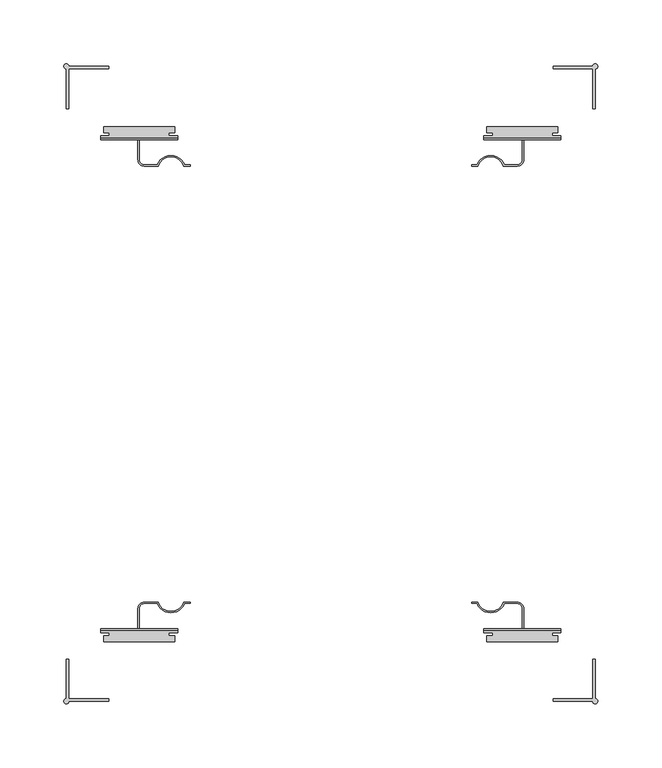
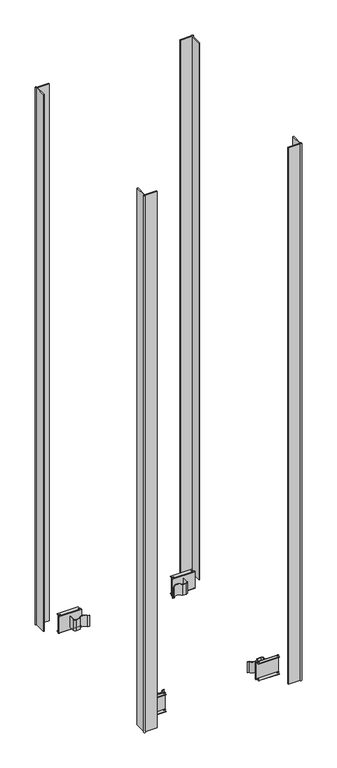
"""IFC4 building model written with IfcOpenShell, lengths in millimetres: column geometry, Облицовка колонн : КНАУФ-Суперлист два слоя."""

from ifc_helpers import new_model, si_unit, point, frame, frame_2d, origin, origin_with_axes, place, context, project, spatial, polyline, circle_curve, trimmed, segment, composite_curve, outline, extrude, source, transform, mapped, element, save
from ifc_brep_helpers import plane_surface, cylinder_surface, advanced_brep


def column_d6a319f2(model_context):
    return source(origin(), model_context, "Body", "SolidModel", [
        extrude(outline(composite_curve([segment(polyline([(174.0, -246.5), (205.0, -246.5), (205.0, -215.5), (206.9874508, -215.5), (206.9874508, -246.5436745)]), True, "CONTINUOUS"), segment(trimmed(circle_curve(frame_2d((206.9874508, -248.5311253)), 1.9874508), [point((206.9874508, -246.5436745))], [point((205.0, -248.5311253))], False, "CARTESIAN"), True, "CONTINUOUS"), segment(polyline([(205.0, -248.5311253), (174.0, -248.5311253), (174.0, -246.5)]), True, "CONTINUOUS")], self_intersect=False)), origin_with_axes(), (0.0, 0.0, 1.0), 1500.0),
        extrude(outline(composite_curve([segment(polyline([(-174.0, -246.5), (-174.0, -248.5311253), (-205.0, -248.5311253)]), True, "CONTINUOUS"), segment(trimmed(circle_curve(frame_2d((-206.9874508, -248.5311253)), 1.9874508), [point((-205.0, -248.5311253))], [point((-206.9874508, -246.5436745))], False, "CARTESIAN"), True, "CONTINUOUS"), segment(polyline([(-206.9874508, -246.5436745), (-206.9874508, -215.5), (-205.0, -215.5), (-205.0, -246.5), (-174.0, -246.5)]), True, "CONTINUOUS")], self_intersect=False)), origin_with_axes(), (0.0, 0.0, 1.0), 1500.0),
        extrude(outline(composite_curve([segment(polyline([(174.0, 246.5), (174.0, 248.5311253), (205.0, 248.5311253)]), True, "CONTINUOUS"), segment(trimmed(circle_curve(frame_2d((206.9874508, 248.5311253)), 1.9874508), [point((205.0, 248.5311253))], [point((206.9874508, 246.5436745))], False, "CARTESIAN"), True, "CONTINUOUS"), segment(polyline([(206.9874508, 246.5436745), (206.9874508, 215.5), (205.0, 215.5), (205.0, 246.5), (174.0, 246.5)]), True, "CONTINUOUS")], self_intersect=False)), origin_with_axes(), (0.0, 0.0, 1.0), 1500.0),
        extrude(outline(composite_curve([segment(polyline([(-174.0, 246.5), (-205.0, 246.5), (-205.0, 215.5), (-206.9874508, 215.5), (-206.9874508, 246.5436745)]), True, "CONTINUOUS"), segment(trimmed(circle_curve(frame_2d((-206.9874508, 248.5311253)), 1.9874508), [point((-206.9874508, 246.5436745))], [point((-205.0, 248.5311253))], False, "CARTESIAN"), True, "CONTINUOUS"), segment(polyline([(-205.0, 248.5311253), (-174.0, 248.5311253), (-174.0, 246.5)]), True, "CONTINUOUS")], self_intersect=False)), origin_with_axes(), (0.0, 0.0, 1.0), 1500.0),
        advanced_brep(
        [(-180.2, 191.5, 46.0), (-180.2, 192.5, 47.0), (-180.2, 194.5, 47.0), (-180.2, 194.5, 46.0), (-180.2, 192.5, 46.0), (-180.2, 192.5, 0.0), (-180.2, 194.5, 0.0), (-180.2, 194.5, -1.0), (-180.2, 192.5, -1.0), (-180.2, 191.5, 0.0), (-119.8, 191.5, 46.0), (-119.8, 191.5, 0.0), (-119.8, 192.5, -1.0), (-119.8, 194.5, -1.0), (-119.8, 194.5, 0.0), (-119.8, 192.5, 0.0), (-119.8, 192.5, 46.0), (-119.8, 194.5, 46.0), (-119.8, 194.5, 47.0), (-119.8, 192.5, 47.0), (-126.6838154, 194.5, 47.0), (-126.6838154, 196.8, 47.0), (-122.2, 196.8, 47.0), (-122.2, 201.5, 47.0), (-177.8, 201.5, 47.0), (-177.8, 196.8, 47.0), (-173.3161846, 196.8, 47.0), (-173.3161846, 194.5, 47.0), (-177.8, 201.5, 46.0), (-122.2, 201.5, 46.0), (-173.3161846, 194.5, 46.0), (-173.3161846, 196.8, 46.0), (-177.8, 196.8, 46.0), (-122.2, 196.8, 46.0), (-126.6838154, 196.8, 46.0), (-126.6838154, 194.5, 46.0), (-126.6838154, 194.5, 0.0), (-126.6838154, 196.8, 0.0), (-122.2, 196.8, 0.0), (-122.2, 201.5, 0.0), (-177.8, 201.5, 0.0), (-177.8, 196.8, 0.0), (-173.3161846, 196.8, 0.0), (-173.3161846, 194.5, 0.0), (-177.8, 201.5, -1.0), (-122.2, 201.5, -1.0), (-173.3161846, 194.5, -1.0), (-173.3161846, 196.8, -1.0), (-177.8, 196.8, -1.0), (-122.2, 196.8, -1.0), (-126.6838154, 196.8, -1.0), (-126.6838154, 194.5, -1.0)],
        [
            (0, 1, circle_curve(frame((-180.2, 192.5, 46.0), z_axis=(-1.0, 0.0, 0.0), x_axis=(0.0, -1.0, 0.0)), 1.0)),
            (1, 2),
            (2, 3),
            (3, 4),
            (4, 5),
            (5, 6),
            (6, 7),
            (7, 8),
            (8, 9, circle_curve(frame((-180.2, 192.5, 0.0), z_axis=(-1.0, 0.0, 0.0), x_axis=(0.0, -1.0, 0.0)), 1.0)),
            (9, 0),
            (10, 11),
            (11, 12, circle_curve(frame((-119.8, 192.5, 0.0), z_axis=(1.0, 0.0, 0.0), x_axis=(0.0, -1.0, 0.0)), 1.0)),
            (12, 13),
            (13, 14),
            (14, 15),
            (15, 16),
            (16, 17),
            (17, 18),
            (18, 19),
            (19, 10, circle_curve(frame((-119.8, 192.5, 46.0), z_axis=(1.0, 0.0, 0.0), x_axis=(0.0, -1.0, 0.0)), 1.0)),
            (0, 10),
            (19, 1),
            (18, 20),
            (20, 21),
            (21, 22),
            (22, 23),
            (23, 24),
            (24, 25),
            (25, 26),
            (26, 27),
            (27, 2),
            (28, 24),
            (23, 29),
            (29, 28),
            (16, 4),
            (3, 30),
            (30, 31),
            (31, 32),
            (32, 28),
            (29, 33),
            (33, 34),
            (34, 35),
            (35, 17),
            (15, 5),
            (14, 36),
            (36, 37),
            (37, 38),
            (38, 39),
            (39, 40),
            (40, 41),
            (41, 42),
            (42, 43),
            (43, 6),
            (44, 40),
            (39, 45),
            (45, 44),
            (12, 8),
            (7, 46),
            (46, 47),
            (47, 48),
            (48, 44),
            (45, 49),
            (49, 50),
            (50, 51),
            (51, 13),
            (11, 9),
            (30, 27),
            (26, 31),
            (46, 43),
            (42, 47),
            (25, 32),
            (41, 48),
            (34, 21),
            (20, 35),
            (50, 37),
            (36, 51),
            (33, 22),
            (49, 38),
        ],
        [
            plane_surface(frame((-180.2, 191.5, 46.0), z_axis=(-1.0, 0.0, 0.0), x_axis=(0.0, 0.0, 1.0))),
            plane_surface(frame((-119.8, 191.5, 46.0), z_axis=(1.0, 0.0, 0.0), x_axis=(0.0, 0.0, -1.0))),
            cylinder_surface(frame((-119.8, 192.5, 46.0), z_axis=(-1.0, 0.0, 0.0), x_axis=(0.0, -1.0, 0.0)), 1.0),
            plane_surface(frame((-180.2, 192.5, 47.0), z_axis=(0.0, 0.0, 1.0), x_axis=(1.0, 0.0, 0.0))),
            plane_surface(frame((-180.2, 201.5, 47.0), z_axis=(0.0, 1.0, 0.0), x_axis=(1.0, 0.0, 0.0))),
            plane_surface(frame((-180.2, 201.5, 46.0), z_axis=(0.0, 0.0, -1.0), x_axis=(1.0, 0.0, 0.0))),
            plane_surface(frame((-180.2, 192.5, 46.0), z_axis=(0.0, 1.0, 0.0), x_axis=(1.0, 0.0, 0.0))),
            plane_surface(frame((-180.2, 192.5, 0.0), z_axis=(0.0, 0.0, 1.0), x_axis=(1.0, 0.0, 0.0))),
            plane_surface(frame((-180.2, 201.5, 0.0), z_axis=(0.0, 1.0, 0.0), x_axis=(1.0, 0.0, 0.0))),
            plane_surface(frame((-180.2, 201.5, -1.0), z_axis=(0.0, 0.0, -1.0), x_axis=(1.0, 0.0, 0.0))),
            cylinder_surface(frame((-119.8, 192.5, 0.0), z_axis=(-1.0, 0.0, 0.0), x_axis=(0.0, -1.0, 0.0)), 1.0),
            plane_surface(frame((-180.2, 191.5, 0.0), z_axis=(0.0, -1.0, 0.0), x_axis=(1.0, 0.0, 0.0))),
            plane_surface(frame((-173.3161846, 194.5, 47.0), z_axis=(-1.0, 0.0, 0.0), x_axis=(0.0, 0.0, -1.0))),
            plane_surface(frame((-173.3161846, 196.8, 47.0), z_axis=(0.0, -1.0, 0.0), x_axis=(0.0, 0.0, -1.0))),
            plane_surface(frame((-177.8, 196.8, 47.0), z_axis=(-1.0, 0.0, 0.0), x_axis=(0.0, 0.0, -1.0))),
            plane_surface(frame((-180.2, 194.5, 47.0), z_axis=(0.0, 1.0, 0.0), x_axis=(0.0, 0.0, -1.0))),
            plane_surface(frame((-126.6838154, 196.8, 47.0), z_axis=(1.0, 0.0, 0.0), x_axis=(0.0, 0.0, -1.0))),
            plane_surface(frame((-122.2, 196.8, 47.0), z_axis=(0.0, -1.0, 0.0), x_axis=(0.0, 0.0, -1.0))),
            plane_surface(frame((-122.2, 201.5, 47.0), z_axis=(1.0, 0.0, 0.0), x_axis=(0.0, 0.0, -1.0))),
            plane_surface(frame((-126.6838154, 194.5, 47.0), z_axis=(0.0, 1.0, 0.0), x_axis=(0.0, 0.0, -1.0))),
        ],
        [
            (0, [[1, 2, 3, 4, 5, 6, 7, 8, 9, 10]]),
            (1, [[11, 12, 13, 14, 15, 16, 17, 18, 19, 20]]),
            (2, [[-1, 21, -20, 22]]),
            (3, [[-22, -19, 23, 24, 25, 26, 27, 28, 29, 30, 31, -2]]),
            (4, [[32, -27, 33, 34]]),
            (5, [[35, -4, 36, 37, 38, 39, -34, 40, 41, 42, 43, -17]]),
            (6, [[-5, -35, -16, 44]]),
            (7, [[-44, -15, 45, 46, 47, 48, 49, 50, 51, 52, 53, -6]]),
            (8, [[54, -49, 55, 56]]),
            (9, [[57, -8, 58, 59, 60, 61, -56, 62, 63, 64, 65, -13]]),
            (10, [[-9, -57, -12, 66]]),
            (11, [[-10, -66, -11, -21]]),
            (12, [[67, -30, 68, -37]]),
            (12, [[69, -52, 70, -59]]),
            (13, [[-68, -29, 71, -38]]),
            (13, [[-70, -51, 72, -60]]),
            (14, [[-71, -28, -32, -39]]),
            (14, [[-72, -50, -54, -61]]),
            (15, [[-67, -36, -3, -31]]),
            (15, [[-69, -58, -7, -53]]),
            (16, [[73, -24, 74, -42]]),
            (16, [[75, -46, 76, -64]]),
            (17, [[-73, -41, 77, -25]]),
            (17, [[-75, -63, 78, -47]]),
            (18, [[-77, -40, -33, -26]]),
            (18, [[-78, -62, -55, -48]]),
            (19, [[-74, -23, -18, -43]]),
            (19, [[-76, -45, -14, -65]]),
        ],
    ),
        extrude(outline(composite_curve([segment(trimmed(circle_curve(frame_2d((-125.2, 167.4974781)), 10.5025219), [point((-115.2, 170.7073015))], [point((-135.2, 170.7073015))], True, "CARTESIAN"), True, "CONTINUOUS"), segment(polyline([(-135.2, 170.7073015), (-146.0, 170.7073015)]), True, "CONTINUOUS"), segment(trimmed(circle_curve(frame_2d((-146.0, 175.7073015)), 5.0), [point((-146.0, 170.7073015))], [point((-151.0, 175.7073015))], False, "CARTESIAN"), True, "CONTINUOUS"), segment(polyline([(-151.0, 175.7073015), (-151.0, 191.5), (-150.0, 191.5), (-150.0, 175.7073015)]), True, "CONTINUOUS"), segment(trimmed(circle_curve(frame_2d((-146.0, 175.7073015)), 4.0), [point((-150.0, 175.7073015))], [point((-146.0, 171.7073015))], True, "CARTESIAN"), True, "CONTINUOUS"), segment(polyline([(-146.0, 171.7073015), (-135.9044569, 171.7073015)]), True, "CONTINUOUS"), segment(trimmed(circle_curve(frame_2d((-125.2, 167.4974781)), 11.5025219), [point((-135.9044569, 171.7073015))], [point((-114.4955431, 171.7073015))], False, "CARTESIAN"), True, "CONTINUOUS"), segment(polyline([(-114.4955431, 171.7073015), (-110.2, 171.7073015), (-110.2, 170.7073015), (-115.2, 170.7073015)]), True, "CONTINUOUS")], self_intersect=False)), frame((0.0, 0.0, 8.0), z_axis=(0.0, 0.0, 1.0), x_axis=(1.0, 0.0, 0.0)), (0.0, 0.0, 1.0), 30.0),
        advanced_brep(
        [(180.2, 191.5, 46.0), (180.2, 191.5, 0.0), (180.2, 192.5, -1.0), (180.2, 194.5, -1.0), (180.2, 194.5, 0.0), (180.2, 192.5, 0.0), (180.2, 192.5, 46.0), (180.2, 194.5, 46.0), (180.2, 194.5, 47.0), (180.2, 192.5, 47.0), (119.8, 191.5, 46.0), (119.8, 192.5, 47.0), (119.8, 194.5, 47.0), (119.8, 194.5, 46.0), (119.8, 192.5, 46.0), (119.8, 192.5, 0.0), (119.8, 194.5, 0.0), (119.8, 194.5, -1.0), (119.8, 192.5, -1.0), (119.8, 191.5, 0.0), (173.3161846, 194.5, 47.0), (173.3161846, 196.8, 47.0), (177.8, 196.8, 47.0), (177.8, 201.5, 47.0), (122.2, 201.5, 47.0), (122.2, 196.8, 47.0), (126.6838154, 196.8, 47.0), (126.6838154, 194.5, 47.0), (177.8, 201.5, 46.0), (122.2, 201.5, 46.0), (126.6838154, 194.5, 46.0), (126.6838154, 196.8, 46.0), (122.2, 196.8, 46.0), (177.8, 196.8, 46.0), (173.3161846, 196.8, 46.0), (173.3161846, 194.5, 46.0), (173.3161846, 194.5, 0.0), (173.3161846, 196.8, 0.0), (177.8, 196.8, 0.0), (177.8, 201.5, 0.0), (122.2, 201.5, 0.0), (122.2, 196.8, 0.0), (126.6838154, 196.8, 0.0), (126.6838154, 194.5, 0.0), (177.8, 201.5, -1.0), (122.2, 201.5, -1.0), (126.6838154, 194.5, -1.0), (126.6838154, 196.8, -1.0), (122.2, 196.8, -1.0), (177.8, 196.8, -1.0), (173.3161846, 196.8, -1.0), (173.3161846, 194.5, -1.0)],
        [
            (0, 1),
            (1, 2, circle_curve(frame((180.2, 192.5, 0.0), z_axis=(1.0, 0.0, 0.0), x_axis=(0.0, -1.0, 0.0)), 1.0)),
            (2, 3),
            (3, 4),
            (4, 5),
            (5, 6),
            (6, 7),
            (7, 8),
            (8, 9),
            (9, 0, circle_curve(frame((180.2, 192.5, 46.0), z_axis=(1.0, 0.0, 0.0), x_axis=(0.0, -1.0, 0.0)), 1.0)),
            (10, 11, circle_curve(frame((119.8, 192.5, 46.0), z_axis=(-1.0, 0.0, 0.0), x_axis=(0.0, -1.0, 0.0)), 1.0)),
            (11, 12),
            (12, 13),
            (13, 14),
            (14, 15),
            (15, 16),
            (16, 17),
            (17, 18),
            (18, 19, circle_curve(frame((119.8, 192.5, 0.0), z_axis=(-1.0, 0.0, 0.0), x_axis=(0.0, -1.0, 0.0)), 1.0)),
            (19, 10),
            (9, 11),
            (10, 0),
            (8, 20),
            (20, 21),
            (21, 22),
            (22, 23),
            (23, 24),
            (24, 25),
            (25, 26),
            (26, 27),
            (27, 12),
            (28, 29),
            (29, 24),
            (23, 28),
            (13, 30),
            (30, 31),
            (31, 32),
            (32, 29),
            (28, 33),
            (33, 34),
            (34, 35),
            (35, 7),
            (6, 14),
            (5, 15),
            (4, 36),
            (36, 37),
            (37, 38),
            (38, 39),
            (39, 40),
            (40, 41),
            (41, 42),
            (42, 43),
            (43, 16),
            (44, 45),
            (45, 40),
            (39, 44),
            (17, 46),
            (46, 47),
            (47, 48),
            (48, 45),
            (44, 49),
            (49, 50),
            (50, 51),
            (51, 3),
            (2, 18),
            (1, 19),
            (34, 21),
            (20, 35),
            (50, 37),
            (36, 51),
            (33, 22),
            (49, 38),
            (30, 27),
            (26, 31),
            (46, 43),
            (42, 47),
            (25, 32),
            (41, 48),
        ],
        [
            plane_surface(frame((180.2, 191.5, 46.0), z_axis=(1.0, 0.0, 0.0), x_axis=(0.0, 0.0, 1.0))),
            plane_surface(frame((119.8, 191.5, 46.0), z_axis=(-1.0, 0.0, 0.0), x_axis=(0.0, 0.0, -1.0))),
            cylinder_surface(frame((119.8, 192.5, 46.0), z_axis=(1.0, 0.0, 0.0), x_axis=(0.0, -1.0, 0.0)), 1.0),
            plane_surface(frame((180.2, 192.5, 47.0), z_axis=(0.0, 0.0, 1.0), x_axis=(-1.0, 0.0, 0.0))),
            plane_surface(frame((180.2, 201.5, 47.0), z_axis=(0.0, 1.0, 0.0), x_axis=(-1.0, 0.0, 0.0))),
            plane_surface(frame((180.2, 201.5, 46.0), z_axis=(0.0, 0.0, -1.0), x_axis=(-1.0, 0.0, 0.0))),
            plane_surface(frame((180.2, 192.5, 46.0), z_axis=(0.0, 1.0, 0.0), x_axis=(-1.0, 0.0, 0.0))),
            plane_surface(frame((180.2, 192.5, 0.0), z_axis=(0.0, 0.0, 1.0), x_axis=(-1.0, 0.0, 0.0))),
            plane_surface(frame((180.2, 201.5, 0.0), z_axis=(0.0, 1.0, 0.0), x_axis=(-1.0, 0.0, 0.0))),
            plane_surface(frame((180.2, 201.5, -1.0), z_axis=(0.0, 0.0, -1.0), x_axis=(-1.0, 0.0, 0.0))),
            cylinder_surface(frame((119.8, 192.5, 0.0), z_axis=(1.0, 0.0, 0.0), x_axis=(0.0, -1.0, 0.0)), 1.0),
            plane_surface(frame((180.2, 191.5, 0.0), z_axis=(0.0, -1.0, 0.0), x_axis=(-1.0, 0.0, 0.0))),
            plane_surface(frame((173.3161846, 194.5, 47.0), z_axis=(1.0, 0.0, 0.0), x_axis=(0.0, 0.0, -1.0))),
            plane_surface(frame((173.3161846, 196.8, 47.0), z_axis=(0.0, -1.0, 0.0), x_axis=(0.0, 0.0, -1.0))),
            plane_surface(frame((177.8, 196.8, 47.0), z_axis=(1.0, 0.0, 0.0), x_axis=(0.0, 0.0, -1.0))),
            plane_surface(frame((180.2, 194.5, 47.0), z_axis=(0.0, 1.0, 0.0), x_axis=(0.0, 0.0, -1.0))),
            plane_surface(frame((126.6838154, 196.8, 47.0), z_axis=(-1.0, 0.0, 0.0), x_axis=(0.0, 0.0, -1.0))),
            plane_surface(frame((122.2, 196.8, 47.0), z_axis=(0.0, -1.0, 0.0), x_axis=(0.0, 0.0, -1.0))),
            plane_surface(frame((122.2, 201.5, 47.0), z_axis=(-1.0, 0.0, 0.0), x_axis=(0.0, 0.0, -1.0))),
            plane_surface(frame((126.6838154, 194.5, 47.0), z_axis=(0.0, 1.0, 0.0), x_axis=(0.0, 0.0, -1.0))),
        ],
        [
            (0, [[1, 2, 3, 4, 5, 6, 7, 8, 9, 10]]),
            (1, [[11, 12, 13, 14, 15, 16, 17, 18, 19, 20]]),
            (2, [[21, -11, 22, -10]]),
            (3, [[-9, 23, 24, 25, 26, 27, 28, 29, 30, 31, -12, -21]]),
            (4, [[32, 33, -27, 34]]),
            (5, [[-14, 35, 36, 37, 38, -32, 39, 40, 41, 42, -7, 43]]),
            (6, [[44, -15, -43, -6]]),
            (7, [[-5, 45, 46, 47, 48, 49, 50, 51, 52, 53, -16, -44]]),
            (8, [[54, 55, -49, 56]]),
            (9, [[-18, 57, 58, 59, 60, -54, 61, 62, 63, 64, -3, 65]]),
            (10, [[66, -19, -65, -2]]),
            (11, [[-22, -20, -66, -1]]),
            (12, [[-41, 67, -24, 68]]),
            (12, [[-63, 69, -46, 70]]),
            (13, [[-40, 71, -25, -67]]),
            (13, [[-62, 72, -47, -69]]),
            (14, [[-39, -34, -26, -71]]),
            (14, [[-61, -56, -48, -72]]),
            (15, [[-23, -8, -42, -68]]),
            (15, [[-45, -4, -64, -70]]),
            (16, [[-36, 73, -30, 74]]),
            (16, [[-58, 75, -52, 76]]),
            (17, [[-29, 77, -37, -74]]),
            (17, [[-51, 78, -59, -76]]),
            (18, [[-28, -33, -38, -77]]),
            (18, [[-50, -55, -60, -78]]),
            (19, [[-35, -13, -31, -73]]),
            (19, [[-57, -17, -53, -75]]),
        ],
    ),
        extrude(outline(composite_curve([segment(polyline([(115.2, 170.7073015), (110.2, 170.7073015), (110.2, 171.7073015), (114.4955431, 171.7073015)]), True, "CONTINUOUS"), segment(trimmed(circle_curve(frame_2d((125.2, 167.4974781)), 11.5025219), [point((114.4955431, 171.7073015))], [point((135.9044569, 171.7073015))], False, "CARTESIAN"), True, "CONTINUOUS"), segment(polyline([(135.9044569, 171.7073015), (146.0, 171.7073015)]), True, "CONTINUOUS"), segment(trimmed(circle_curve(frame_2d((146.0, 175.7073015)), 4.0), [point((146.0, 171.7073015))], [point((150.0, 175.7073015))], True, "CARTESIAN"), True, "CONTINUOUS"), segment(polyline([(150.0, 175.7073015), (150.0, 191.5), (151.0, 191.5), (151.0, 175.7073015)]), True, "CONTINUOUS"), segment(trimmed(circle_curve(frame_2d((146.0, 175.7073015)), 5.0), [point((151.0, 175.7073015))], [point((146.0, 170.7073015))], False, "CARTESIAN"), True, "CONTINUOUS"), segment(polyline([(146.0, 170.7073015), (135.2, 170.7073015)]), True, "CONTINUOUS"), segment(trimmed(circle_curve(frame_2d((125.2, 167.4974781)), 10.5025219), [point((135.2, 170.7073015))], [point((115.2, 170.7073015))], True, "CARTESIAN"), True, "CONTINUOUS")], self_intersect=False)), frame((0.0, 0.0, 8.0), z_axis=(0.0, 0.0, 1.0), x_axis=(1.0, 0.0, 0.0)), (0.0, 0.0, 1.0), 30.0),
        advanced_brep(
        [(-180.2, -191.5, 46.0), (-180.2, -191.5, 0.0), (-180.2, -192.5, -1.0), (-180.2, -194.5, -1.0), (-180.2, -194.5, 0.0), (-180.2, -192.5, 0.0), (-180.2, -192.5, 46.0), (-180.2, -194.5, 46.0), (-180.2, -194.5, 47.0), (-180.2, -192.5, 47.0), (-119.8, -191.5, 46.0), (-119.8, -192.5, 47.0), (-119.8, -194.5, 47.0), (-119.8, -194.5, 46.0), (-119.8, -192.5, 46.0), (-119.8, -192.5, 0.0), (-119.8, -194.5, 0.0), (-119.8, -194.5, -1.0), (-119.8, -192.5, -1.0), (-119.8, -191.5, 0.0), (-173.3161846, -194.5, 47.0), (-173.3161846, -196.8, 47.0), (-177.8, -196.8, 47.0), (-177.8, -201.5, 47.0), (-122.2, -201.5, 47.0), (-122.2, -196.8, 47.0), (-126.6838154, -196.8, 47.0), (-126.6838154, -194.5, 47.0), (-177.8, -201.5, 46.0), (-122.2, -201.5, 46.0), (-126.6838154, -194.5, 46.0), (-126.6838154, -196.8, 46.0), (-122.2, -196.8, 46.0), (-177.8, -196.8, 46.0), (-173.3161846, -196.8, 46.0), (-173.3161846, -194.5, 46.0), (-173.3161846, -194.5, 0.0), (-173.3161846, -196.8, 0.0), (-177.8, -196.8, 0.0), (-177.8, -201.5, 0.0), (-122.2, -201.5, 0.0), (-122.2, -196.8, 0.0), (-126.6838154, -196.8, 0.0), (-126.6838154, -194.5, 0.0), (-177.8, -201.5, -1.0), (-122.2, -201.5, -1.0), (-126.6838154, -194.5, -1.0), (-126.6838154, -196.8, -1.0), (-122.2, -196.8, -1.0), (-177.8, -196.8, -1.0), (-173.3161846, -196.8, -1.0), (-173.3161846, -194.5, -1.0)],
        [
            (0, 1),
            (1, 2, circle_curve(frame((-180.2, -192.5, 0.0), z_axis=(-1.0, 0.0, 0.0), x_axis=(0.0, 1.0, 0.0)), 1.0)),
            (2, 3),
            (3, 4),
            (4, 5),
            (5, 6),
            (6, 7),
            (7, 8),
            (8, 9),
            (9, 0, circle_curve(frame((-180.2, -192.5, 46.0), z_axis=(-1.0, 0.0, 0.0), x_axis=(0.0, 1.0, 0.0)), 1.0)),
            (10, 11, circle_curve(frame((-119.8, -192.5, 46.0), z_axis=(1.0, 0.0, 0.0), x_axis=(0.0, 1.0, 0.0)), 1.0)),
            (11, 12),
            (12, 13),
            (13, 14),
            (14, 15),
            (15, 16),
            (16, 17),
            (17, 18),
            (18, 19, circle_curve(frame((-119.8, -192.5, 0.0), z_axis=(1.0, 0.0, 0.0), x_axis=(0.0, 1.0, 0.0)), 1.0)),
            (19, 10),
            (9, 11),
            (10, 0),
            (8, 20),
            (20, 21),
            (21, 22),
            (22, 23),
            (23, 24),
            (24, 25),
            (25, 26),
            (26, 27),
            (27, 12),
            (28, 29),
            (29, 24),
            (23, 28),
            (13, 30),
            (30, 31),
            (31, 32),
            (32, 29),
            (28, 33),
            (33, 34),
            (34, 35),
            (35, 7),
            (6, 14),
            (5, 15),
            (4, 36),
            (36, 37),
            (37, 38),
            (38, 39),
            (39, 40),
            (40, 41),
            (41, 42),
            (42, 43),
            (43, 16),
            (44, 45),
            (45, 40),
            (39, 44),
            (17, 46),
            (46, 47),
            (47, 48),
            (48, 45),
            (44, 49),
            (49, 50),
            (50, 51),
            (51, 3),
            (2, 18),
            (1, 19),
            (34, 21),
            (20, 35),
            (50, 37),
            (36, 51),
            (33, 22),
            (49, 38),
            (30, 27),
            (26, 31),
            (46, 43),
            (42, 47),
            (25, 32),
            (41, 48),
        ],
        [
            plane_surface(frame((-180.2, -191.5, 46.0), z_axis=(-1.0, 0.0, 0.0), x_axis=(0.0, 0.0, 1.0))),
            plane_surface(frame((-119.8, -191.5, 46.0), z_axis=(1.0, 0.0, 0.0), x_axis=(0.0, 0.0, -1.0))),
            cylinder_surface(frame((-119.8, -192.5, 46.0), z_axis=(-1.0, 0.0, 0.0), x_axis=(0.0, 1.0, 0.0)), 1.0),
            plane_surface(frame((-180.2, -192.5, 47.0), z_axis=(0.0, 0.0, 1.0), x_axis=(1.0, 0.0, 0.0))),
            plane_surface(frame((-180.2, -201.5, 47.0), z_axis=(0.0, -1.0, 0.0), x_axis=(1.0, 0.0, 0.0))),
            plane_surface(frame((-180.2, -201.5, 46.0), z_axis=(0.0, 0.0, -1.0), x_axis=(1.0, 0.0, 0.0))),
            plane_surface(frame((-180.2, -192.5, 46.0), z_axis=(0.0, -1.0, 0.0), x_axis=(1.0, 0.0, 0.0))),
            plane_surface(frame((-180.2, -192.5, 0.0), z_axis=(0.0, 0.0, 1.0), x_axis=(1.0, 0.0, 0.0))),
            plane_surface(frame((-180.2, -201.5, 0.0), z_axis=(0.0, -1.0, 0.0), x_axis=(1.0, 0.0, 0.0))),
            plane_surface(frame((-180.2, -201.5, -1.0), z_axis=(0.0, 0.0, -1.0), x_axis=(1.0, 0.0, 0.0))),
            cylinder_surface(frame((-119.8, -192.5, 0.0), z_axis=(-1.0, 0.0, 0.0), x_axis=(0.0, 1.0, 0.0)), 1.0),
            plane_surface(frame((-180.2, -191.5, 0.0), z_axis=(0.0, 1.0, 0.0), x_axis=(1.0, 0.0, 0.0))),
            plane_surface(frame((-173.3161846, -194.5, 47.0), z_axis=(-1.0, 0.0, 0.0), x_axis=(0.0, 0.0, -1.0))),
            plane_surface(frame((-173.3161846, -196.8, 47.0), z_axis=(0.0, 1.0, 0.0), x_axis=(0.0, 0.0, -1.0))),
            plane_surface(frame((-177.8, -196.8, 47.0), z_axis=(-1.0, 0.0, 0.0), x_axis=(0.0, 0.0, -1.0))),
            plane_surface(frame((-180.2, -194.5, 47.0), z_axis=(0.0, -1.0, 0.0), x_axis=(0.0, 0.0, -1.0))),
            plane_surface(frame((-126.6838154, -196.8, 47.0), z_axis=(1.0, 0.0, 0.0), x_axis=(0.0, 0.0, -1.0))),
            plane_surface(frame((-122.2, -196.8, 47.0), z_axis=(0.0, 1.0, 0.0), x_axis=(0.0, 0.0, -1.0))),
            plane_surface(frame((-122.2, -201.5, 47.0), z_axis=(1.0, 0.0, 0.0), x_axis=(0.0, 0.0, -1.0))),
            plane_surface(frame((-126.6838154, -194.5, 47.0), z_axis=(0.0, -1.0, 0.0), x_axis=(0.0, 0.0, -1.0))),
        ],
        [
            (0, [[1, 2, 3, 4, 5, 6, 7, 8, 9, 10]]),
            (1, [[11, 12, 13, 14, 15, 16, 17, 18, 19, 20]]),
            (2, [[21, -11, 22, -10]]),
            (3, [[-9, 23, 24, 25, 26, 27, 28, 29, 30, 31, -12, -21]]),
            (4, [[32, 33, -27, 34]]),
            (5, [[-14, 35, 36, 37, 38, -32, 39, 40, 41, 42, -7, 43]]),
            (6, [[44, -15, -43, -6]]),
            (7, [[-5, 45, 46, 47, 48, 49, 50, 51, 52, 53, -16, -44]]),
            (8, [[54, 55, -49, 56]]),
            (9, [[-18, 57, 58, 59, 60, -54, 61, 62, 63, 64, -3, 65]]),
            (10, [[66, -19, -65, -2]]),
            (11, [[-22, -20, -66, -1]]),
            (12, [[-41, 67, -24, 68]]),
            (12, [[-63, 69, -46, 70]]),
            (13, [[-40, 71, -25, -67]]),
            (13, [[-62, 72, -47, -69]]),
            (14, [[-39, -34, -26, -71]]),
            (14, [[-61, -56, -48, -72]]),
            (15, [[-23, -8, -42, -68]]),
            (15, [[-45, -4, -64, -70]]),
            (16, [[-36, 73, -30, 74]]),
            (16, [[-58, 75, -52, 76]]),
            (17, [[-29, 77, -37, -74]]),
            (17, [[-51, 78, -59, -76]]),
            (18, [[-28, -33, -38, -77]]),
            (18, [[-50, -55, -60, -78]]),
            (19, [[-35, -13, -31, -73]]),
            (19, [[-57, -17, -53, -75]]),
        ],
    ),
        extrude(outline(composite_curve([segment(polyline([(-115.2, -170.7073015), (-110.2, -170.7073015), (-110.2, -171.7073015), (-114.4955431, -171.7073015)]), True, "CONTINUOUS"), segment(trimmed(circle_curve(frame_2d((-125.2, -167.4974781)), 11.5025219), [point((-114.4955431, -171.7073015))], [point((-135.9044569, -171.7073015))], False, "CARTESIAN"), True, "CONTINUOUS"), segment(polyline([(-135.9044569, -171.7073015), (-146.0, -171.7073015)]), True, "CONTINUOUS"), segment(trimmed(circle_curve(frame_2d((-146.0, -175.7073015)), 4.0), [point((-146.0, -171.7073015))], [point((-150.0, -175.7073015))], True, "CARTESIAN"), True, "CONTINUOUS"), segment(polyline([(-150.0, -175.7073015), (-150.0, -191.5), (-151.0, -191.5), (-151.0, -175.7073015)]), True, "CONTINUOUS"), segment(trimmed(circle_curve(frame_2d((-146.0, -175.7073015)), 5.0), [point((-151.0, -175.7073015))], [point((-146.0, -170.7073015))], False, "CARTESIAN"), True, "CONTINUOUS"), segment(polyline([(-146.0, -170.7073015), (-135.2, -170.7073015)]), True, "CONTINUOUS"), segment(trimmed(circle_curve(frame_2d((-125.2, -167.4974781)), 10.5025219), [point((-135.2, -170.7073015))], [point((-115.2, -170.7073015))], True, "CARTESIAN"), True, "CONTINUOUS")], self_intersect=False)), frame((0.0, 0.0, 8.0), z_axis=(0.0, 0.0, 1.0), x_axis=(1.0, 0.0, 0.0)), (0.0, 0.0, 1.0), 30.0),
        advanced_brep(
        [(180.2, -191.5, 46.0), (180.2, -192.5, 47.0), (180.2, -194.5, 47.0), (180.2, -194.5, 46.0), (180.2, -192.5, 46.0), (180.2, -192.5, 0.0), (180.2, -194.5, 0.0), (180.2, -194.5, -1.0), (180.2, -192.5, -1.0), (180.2, -191.5, 0.0), (119.8, -191.5, 46.0), (119.8, -191.5, 0.0), (119.8, -192.5, -1.0), (119.8, -194.5, -1.0), (119.8, -194.5, 0.0), (119.8, -192.5, 0.0), (119.8, -192.5, 46.0), (119.8, -194.5, 46.0), (119.8, -194.5, 47.0), (119.8, -192.5, 47.0), (126.6838154, -194.5, 47.0), (126.6838154, -196.8, 47.0), (122.2, -196.8, 47.0), (122.2, -201.5, 47.0), (177.8, -201.5, 47.0), (177.8, -196.8, 47.0), (173.3161846, -196.8, 47.0), (173.3161846, -194.5, 47.0), (177.8, -201.5, 46.0), (122.2, -201.5, 46.0), (173.3161846, -194.5, 46.0), (173.3161846, -196.8, 46.0), (177.8, -196.8, 46.0), (122.2, -196.8, 46.0), (126.6838154, -196.8, 46.0), (126.6838154, -194.5, 46.0), (126.6838154, -194.5, 0.0), (126.6838154, -196.8, 0.0), (122.2, -196.8, 0.0), (122.2, -201.5, 0.0), (177.8, -201.5, 0.0), (177.8, -196.8, 0.0), (173.3161846, -196.8, 0.0), (173.3161846, -194.5, 0.0), (177.8, -201.5, -1.0), (122.2, -201.5, -1.0), (173.3161846, -194.5, -1.0), (173.3161846, -196.8, -1.0), (177.8, -196.8, -1.0), (122.2, -196.8, -1.0), (126.6838154, -196.8, -1.0), (126.6838154, -194.5, -1.0)],
        [
            (0, 1, circle_curve(frame((180.2, -192.5, 46.0), z_axis=(1.0, 0.0, 0.0), x_axis=(0.0, 1.0, 0.0)), 1.0)),
            (1, 2),
            (2, 3),
            (3, 4),
            (4, 5),
            (5, 6),
            (6, 7),
            (7, 8),
            (8, 9, circle_curve(frame((180.2, -192.5, 0.0), z_axis=(1.0, 0.0, 0.0), x_axis=(0.0, 1.0, 0.0)), 1.0)),
            (9, 0),
            (10, 11),
            (11, 12, circle_curve(frame((119.8, -192.5, 0.0), z_axis=(-1.0, 0.0, 0.0), x_axis=(0.0, 1.0, 0.0)), 1.0)),
            (12, 13),
            (13, 14),
            (14, 15),
            (15, 16),
            (16, 17),
            (17, 18),
            (18, 19),
            (19, 10, circle_curve(frame((119.8, -192.5, 46.0), z_axis=(-1.0, 0.0, 0.0), x_axis=(0.0, 1.0, 0.0)), 1.0)),
            (0, 10),
            (19, 1),
            (18, 20),
            (20, 21),
            (21, 22),
            (22, 23),
            (23, 24),
            (24, 25),
            (25, 26),
            (26, 27),
            (27, 2),
            (28, 24),
            (23, 29),
            (29, 28),
            (16, 4),
            (3, 30),
            (30, 31),
            (31, 32),
            (32, 28),
            (29, 33),
            (33, 34),
            (34, 35),
            (35, 17),
            (15, 5),
            (14, 36),
            (36, 37),
            (37, 38),
            (38, 39),
            (39, 40),
            (40, 41),
            (41, 42),
            (42, 43),
            (43, 6),
            (44, 40),
            (39, 45),
            (45, 44),
            (12, 8),
            (7, 46),
            (46, 47),
            (47, 48),
            (48, 44),
            (45, 49),
            (49, 50),
            (50, 51),
            (51, 13),
            (11, 9),
            (30, 27),
            (26, 31),
            (46, 43),
            (42, 47),
            (25, 32),
            (41, 48),
            (34, 21),
            (20, 35),
            (50, 37),
            (36, 51),
            (33, 22),
            (49, 38),
        ],
        [
            plane_surface(frame((180.2, -191.5, 46.0), z_axis=(1.0, 0.0, 0.0), x_axis=(0.0, 0.0, 1.0))),
            plane_surface(frame((119.8, -191.5, 46.0), z_axis=(-1.0, 0.0, 0.0), x_axis=(0.0, 0.0, -1.0))),
            cylinder_surface(frame((119.8, -192.5, 46.0), z_axis=(1.0, 0.0, 0.0), x_axis=(0.0, 1.0, 0.0)), 1.0),
            plane_surface(frame((180.2, -192.5, 47.0), z_axis=(0.0, 0.0, 1.0), x_axis=(-1.0, 0.0, 0.0))),
            plane_surface(frame((180.2, -201.5, 47.0), z_axis=(0.0, -1.0, 0.0), x_axis=(-1.0, 0.0, 0.0))),
            plane_surface(frame((180.2, -201.5, 46.0), z_axis=(0.0, 0.0, -1.0), x_axis=(-1.0, 0.0, 0.0))),
            plane_surface(frame((180.2, -192.5, 46.0), z_axis=(0.0, -1.0, 0.0), x_axis=(-1.0, 0.0, 0.0))),
            plane_surface(frame((180.2, -192.5, 0.0), z_axis=(0.0, 0.0, 1.0), x_axis=(-1.0, 0.0, 0.0))),
            plane_surface(frame((180.2, -201.5, 0.0), z_axis=(0.0, -1.0, 0.0), x_axis=(-1.0, 0.0, 0.0))),
            plane_surface(frame((180.2, -201.5, -1.0), z_axis=(0.0, 0.0, -1.0), x_axis=(-1.0, 0.0, 0.0))),
            cylinder_surface(frame((119.8, -192.5, 0.0), z_axis=(1.0, 0.0, 0.0), x_axis=(0.0, 1.0, 0.0)), 1.0),
            plane_surface(frame((180.2, -191.5, 0.0), z_axis=(0.0, 1.0, 0.0), x_axis=(-1.0, 0.0, 0.0))),
            plane_surface(frame((173.3161846, -194.5, 47.0), z_axis=(1.0, 0.0, 0.0), x_axis=(0.0, 0.0, -1.0))),
            plane_surface(frame((173.3161846, -196.8, 47.0), z_axis=(0.0, 1.0, 0.0), x_axis=(0.0, 0.0, -1.0))),
            plane_surface(frame((177.8, -196.8, 47.0), z_axis=(1.0, 0.0, 0.0), x_axis=(0.0, 0.0, -1.0))),
            plane_surface(frame((180.2, -194.5, 47.0), z_axis=(0.0, -1.0, 0.0), x_axis=(0.0, 0.0, -1.0))),
            plane_surface(frame((126.6838154, -196.8, 47.0), z_axis=(-1.0, 0.0, 0.0), x_axis=(0.0, 0.0, -1.0))),
            plane_surface(frame((122.2, -196.8, 47.0), z_axis=(0.0, 1.0, 0.0), x_axis=(0.0, 0.0, -1.0))),
            plane_surface(frame((122.2, -201.5, 47.0), z_axis=(-1.0, 0.0, 0.0), x_axis=(0.0, 0.0, -1.0))),
            plane_surface(frame((126.6838154, -194.5, 47.0), z_axis=(0.0, -1.0, 0.0), x_axis=(0.0, 0.0, -1.0))),
        ],
        [
            (0, [[1, 2, 3, 4, 5, 6, 7, 8, 9, 10]]),
            (1, [[11, 12, 13, 14, 15, 16, 17, 18, 19, 20]]),
            (2, [[-1, 21, -20, 22]]),
            (3, [[-22, -19, 23, 24, 25, 26, 27, 28, 29, 30, 31, -2]]),
            (4, [[32, -27, 33, 34]]),
            (5, [[35, -4, 36, 37, 38, 39, -34, 40, 41, 42, 43, -17]]),
            (6, [[-5, -35, -16, 44]]),
            (7, [[-44, -15, 45, 46, 47, 48, 49, 50, 51, 52, 53, -6]]),
            (8, [[54, -49, 55, 56]]),
            (9, [[57, -8, 58, 59, 60, 61, -56, 62, 63, 64, 65, -13]]),
            (10, [[-9, -57, -12, 66]]),
            (11, [[-10, -66, -11, -21]]),
            (12, [[67, -30, 68, -37]]),
            (12, [[69, -52, 70, -59]]),
            (13, [[-68, -29, 71, -38]]),
            (13, [[-70, -51, 72, -60]]),
            (14, [[-71, -28, -32, -39]]),
            (14, [[-72, -50, -54, -61]]),
            (15, [[-67, -36, -3, -31]]),
            (15, [[-69, -58, -7, -53]]),
            (16, [[73, -24, 74, -42]]),
            (16, [[75, -46, 76, -64]]),
            (17, [[-73, -41, 77, -25]]),
            (17, [[-75, -63, 78, -47]]),
            (18, [[-77, -40, -33, -26]]),
            (18, [[-78, -62, -55, -48]]),
            (19, [[-74, -23, -18, -43]]),
            (19, [[-76, -45, -14, -65]]),
        ],
    ),
        extrude(outline(composite_curve([segment(trimmed(circle_curve(frame_2d((125.2, -167.4974781)), 10.5025219), [point((115.2, -170.7073015))], [point((135.2, -170.7073015))], True, "CARTESIAN"), True, "CONTINUOUS"), segment(polyline([(135.2, -170.7073015), (146.0, -170.7073015)]), True, "CONTINUOUS"), segment(trimmed(circle_curve(frame_2d((146.0, -175.7073015)), 5.0), [point((146.0, -170.7073015))], [point((151.0, -175.7073015))], False, "CARTESIAN"), True, "CONTINUOUS"), segment(polyline([(151.0, -175.7073015), (151.0, -191.5), (150.0, -191.5), (150.0, -175.7073015)]), True, "CONTINUOUS"), segment(trimmed(circle_curve(frame_2d((146.0, -175.7073015)), 4.0), [point((150.0, -175.7073015))], [point((146.0, -171.7073015))], True, "CARTESIAN"), True, "CONTINUOUS"), segment(polyline([(146.0, -171.7073015), (135.9044569, -171.7073015)]), True, "CONTINUOUS"), segment(trimmed(circle_curve(frame_2d((125.2, -167.4974781)), 11.5025219), [point((135.9044569, -171.7073015))], [point((114.4955431, -171.7073015))], False, "CARTESIAN"), True, "CONTINUOUS"), segment(polyline([(114.4955431, -171.7073015), (110.2, -171.7073015), (110.2, -170.7073015), (115.2, -170.7073015)]), True, "CONTINUOUS")], self_intersect=False)), frame((0.0, 0.0, 8.0), z_axis=(0.0, 0.0, 1.0), x_axis=(1.0, 0.0, 0.0)), (0.0, 0.0, 1.0), 30.0),
    ])


if __name__ == "__main__":
    model = new_model("IFC4")
    model_context = context("Model", 3, world=origin())
    ifc_project = project(units=[si_unit("LENGTHUNIT", "METRE", prefix="MILLI")], contexts=[model_context])
    site = spatial("IfcSite", under=ifc_project)
    building = spatial("IfcBuilding", under=site)
    placement = place(None, origin())
    column_shape = column_d6a319f2(model_context)
    element("IfcColumn", 1, ObjectType="Облицовка колонн : КНАУФ-Суперлист два слоя", at=placement, inside=building, context=model_context, shape_type="MappedRepresentation", body=[
        mapped(column_shape, transform((0.0, 0.0, 0.0), x_axis=(1.0, 0.0, 0.0), y_axis=(0.0, 1.0, 0.0), z_axis=(0.0, 0.0, 1.0))),
    ])
    save(model, "model.ifc")
